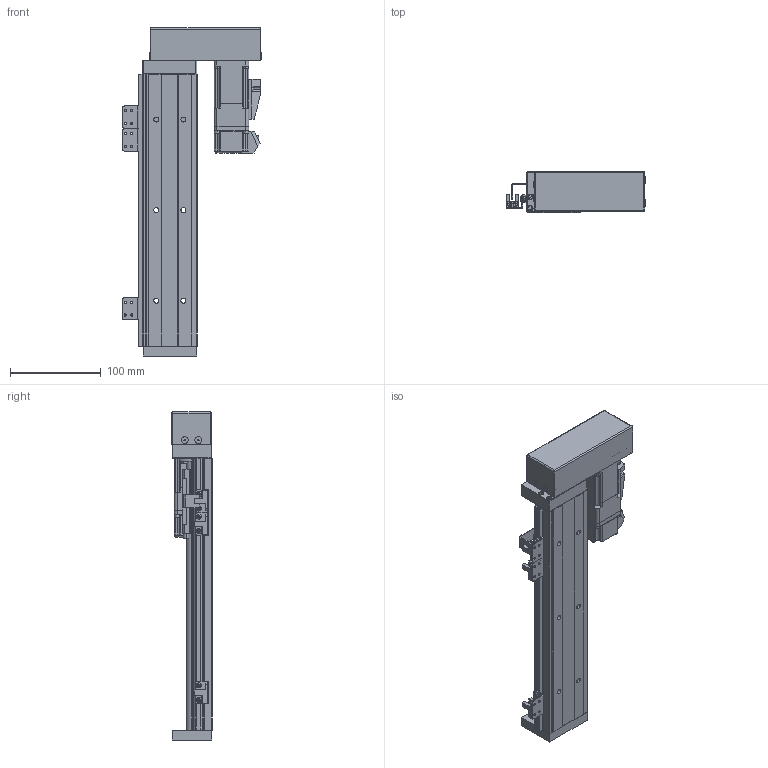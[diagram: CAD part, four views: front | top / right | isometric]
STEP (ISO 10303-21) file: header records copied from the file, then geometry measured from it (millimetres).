
FILE_DESCRIPTION (( 'STEP AP203' ), '1' );
FILE_NAME ('KH60D10C-300A1-H2LS1.STEP', '2022-06-08T07:23:35', ( 'CXY' ), ( 'BT' ), 'SwSTEP 2.0', 'SolidWorks 2016', '' );
FILE_SCHEMA (( 'CONFIG_CONTROL_DESIGN' ));
Length unit declared in the file: millimetre
Products named in the file (22): PM-Y65; 侂狟萇儂P10B; KK60-08-01; 晦埴芛M3X6蹟隊; 内六角圆柱头螺钉M3×10; KH86-08-(SX674); 216々湍; B-KK60-A1-F0C; KK60-02-04; KK60-01-02-XXXX_KK60-01-02-150; KH60-02-0000; KH60-500; KK60-02-03; KK60-02-02; 内六角圆柱头螺钉M3×18; 綴釱; 錨璃2; 囀鞠褒す埴芛蹟隊M3℅5; KH60D10C-300A1-H2LS1; KK60-02-01-H0_KK60-02-01-H0&H1; KK60-04-07G; 鞠褒蹟譫M3
Assembly tree (36 placements, depth 3):
  KH60D10C-300A1-H2LS1
    KH60-500
    B-KK60-A1-F0C
      錨璃2
    綴釱
    KK60-01-02-XXXX_KK60-01-02-150
    KH60-02-0000
      KK60-02-01-H0_KK60-02-01-H0&H1
      KK60-02-02
      KK60-02-03
      内六角圆柱头螺钉M3×18  x4
      侂狟萇儂P10B
      KK60-02-04
      216々湍
      内六角圆柱头螺钉M3×10  x4
      晦埴芛M3X6蹟隊  x4
    KH86-08-(SX674)  x3
      KK60-08-01
      囀鞠褒す埴芛蹟隊M3℅5
      鞠褒蹟譫M3
    KK60-04-07G
    PM-Y65  x3
Bounding box: 153.7 x 45 x 362 mm (x, y, z)
Volume: 581854 mm3; surface area: 207211.4 mm2
Topology: 42 solids, 42 shells, 2468 faces, 6430 edges, 4147 vertices
Faces by surface type: plane 1325, cylinder 548, bspline 280, cone 241, torus 62, sphere 12
Entity records: 60442 total; most frequent: CARTESIAN_POINT 14898, ORIENTED_EDGE 9354, DIRECTION 8040, EDGE_CURVE 4677, VERTEX_POINT 3074, VECTOR 3008, LINE 3008, AXIS2_PLACEMENT_3D 2516
